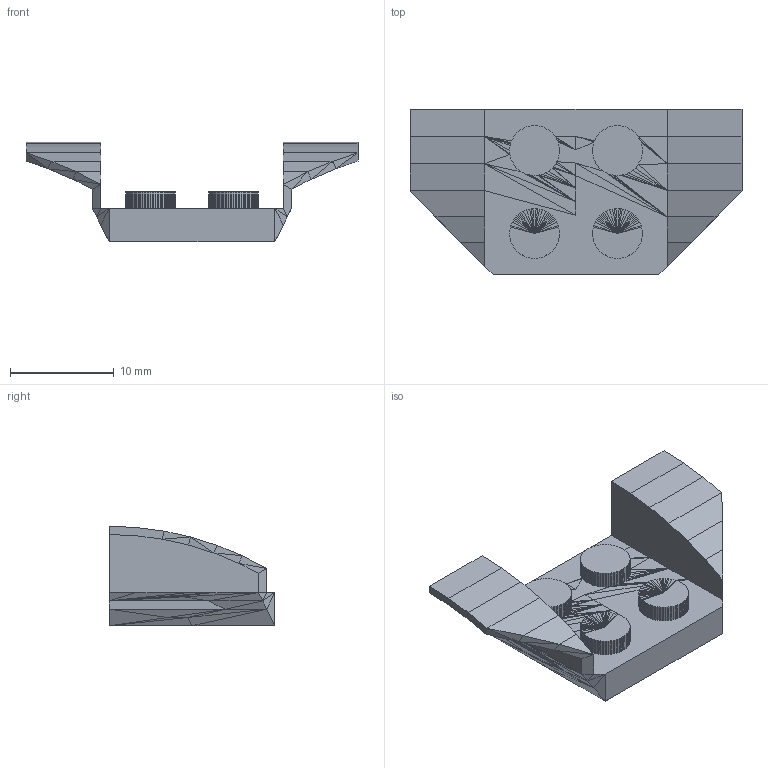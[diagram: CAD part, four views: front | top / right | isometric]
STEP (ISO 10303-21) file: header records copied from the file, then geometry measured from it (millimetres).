
FILE_DESCRIPTION(('Open CASCADE Model'),'2;1');
FILE_NAME('Open CASCADE Shape Model','2026-10-28T15:29:22',('Author'),( 'Open CASCADE'),'Open CASCADE STEP processor 7.9','Open CASCADE 7.9' ,'Unknown');
FILE_SCHEMA(('AUTOMOTIVE_DESIGN { 1 0 10303 214 1 1 1 1 }'));
Products named in the file (1): Open CASCADE STEP translator 7.9 1
Bounding box: 32.01 x 15.99 x 9.59 mm (x, y, z)
Volume: 1010.6 mm3; surface area: 1651.4 mm2
Topology: 1 solids, 1 shells, 1100 faces, 2473 edges, 1379 vertices
Faces by surface type: plane 1100
Entity records: 61048 total; most frequent: CARTESIAN_POINT 9900, DIRECTION 9621, LINE 7419, VECTOR 7419, ORIENTED_EDGE 4946, PCURVE 4946, DEFINITIONAL_REPRESENTATION 4946, EDGE_CURVE 2473
